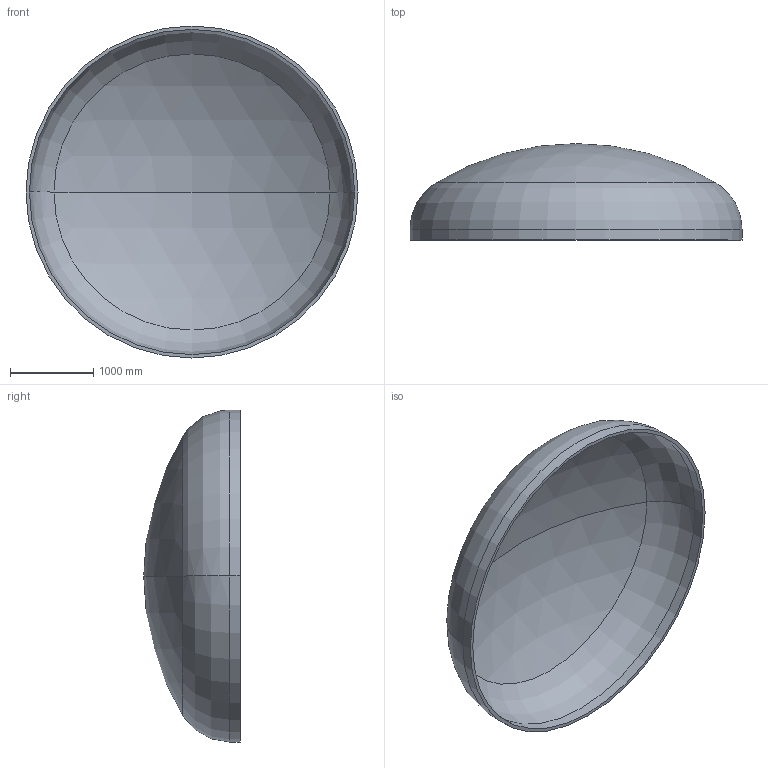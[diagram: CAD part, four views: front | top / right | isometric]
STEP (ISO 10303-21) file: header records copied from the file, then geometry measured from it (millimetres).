
FILE_DESCRIPTION (( 'STEP AP203' ), '1' );
FILE_NAME ('DIN 28013 Korbbogenform_-_Boden DIN 28013 - 4000 x 130 - I - s=41.step', '2016-07-01T22:23:14', ( '' ), ( '' ), 'SwSTEP 2.0', 'SolidWorks 2013', '' );
FILE_SCHEMA (( 'CONFIG_CONTROL_DESIGN' ));
Length unit declared in the file: millimetre
Products named in the file (1): DIN 28013 Korbbogenform_-_Boden DIN 28013 - 4000 x 130 - I - s=41
Bounding box: 4000 x 1162.86 x 4000 mm (x, y, z)
Volume: 770034545.9 mm3; surface area: 38076107.9 mm2
Topology: 1 solids, 1 shells, 13 faces, 24 edges, 14 vertices
Faces by surface type: torus 4, cylinder 4, sphere 4, plane 1
Entity records: 407 total; most frequent: DIRECTION 72, CARTESIAN_POINT 52, ORIENTED_EDGE 48, AXIS2_PLACEMENT_3D 34, EDGE_CURVE 24, CIRCLE 20, EDGE_LOOP 14, VERTEX_POINT 14
